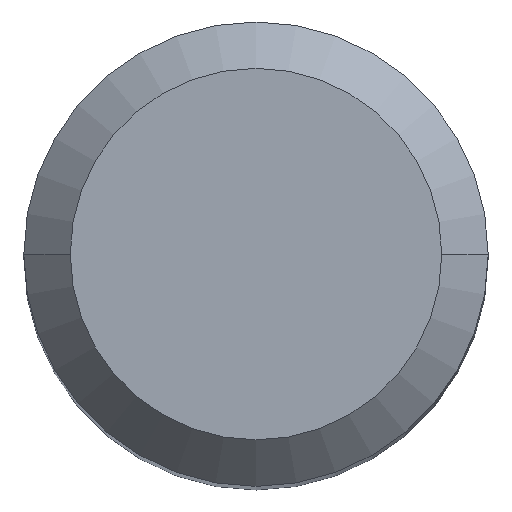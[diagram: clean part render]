
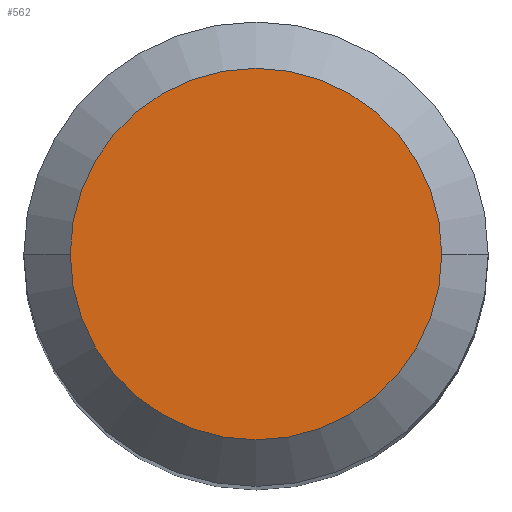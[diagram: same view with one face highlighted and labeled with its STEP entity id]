
A CAD part, top view. The second image highlights one B-rep face of the part: STEP entity #562.
In plain terms, the highlighted planar face has unit normal (0, 0, 1).
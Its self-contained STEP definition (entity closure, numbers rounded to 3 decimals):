
#8 = CIRCLE ( 'NONE', #375, 3.2 ) ;
#24 = PLANE ( 'NONE',  #300 ) ;
#29 = EDGE_LOOP ( 'NONE', ( #149, #161 ) ) ;
#32 = VERTEX_POINT ( 'NONE', #370 ) ;
#96 = AXIS2_PLACEMENT_3D ( 'NONE', #321, #418, #334 ) ;
#149 = ORIENTED_EDGE ( 'NONE', *, *, #521, .F. ) ;
#157 = VERTEX_POINT ( 'NONE', #526 ) ;
#161 = ORIENTED_EDGE ( 'NONE', *, *, #306, .F. ) ;
#176 = DIRECTION ( 'NONE',  ( 0., 0., -1. ) ) ;
#186 = DIRECTION ( 'NONE',  ( 0., 0., 1. ) ) ;
#228 = CIRCLE ( 'NONE', #96, 3.2 ) ;
#232 = DIRECTION ( 'NONE',  ( 1., 0., 0. ) ) ;
#300 = AXIS2_PLACEMENT_3D ( 'NONE', #390, #186, #232 ) ;
#306 = EDGE_CURVE ( 'NONE', #157, #32, #8, .T. ) ;
#321 = CARTESIAN_POINT ( 'NONE',  ( 0., 0., 0. ) ) ;
#334 = DIRECTION ( 'NONE',  ( -1., 0., 0. ) ) ;
#370 = CARTESIAN_POINT ( 'NONE',  ( -3.2, 0., 0. ) ) ;
#375 = AXIS2_PLACEMENT_3D ( 'NONE', #504, #176, #424 ) ;
#390 = CARTESIAN_POINT ( 'NONE',  ( 0., 3.2, 0. ) ) ;
#418 = DIRECTION ( 'NONE',  ( 0., 0., -1. ) ) ;
#424 = DIRECTION ( 'NONE',  ( -1., 0., 0. ) ) ;
#504 = CARTESIAN_POINT ( 'NONE',  ( 0., 0., 0. ) ) ;
#521 = EDGE_CURVE ( 'NONE', #32, #157, #228, .T. ) ;
#526 = CARTESIAN_POINT ( 'NONE',  ( 3.2, 0., 0. ) ) ;
#562 = ADVANCED_FACE ( 'NONE', ( #573 ), #24, .T. ) ;
#573 = FACE_OUTER_BOUND ( 'NONE', #29, .T. ) ;
